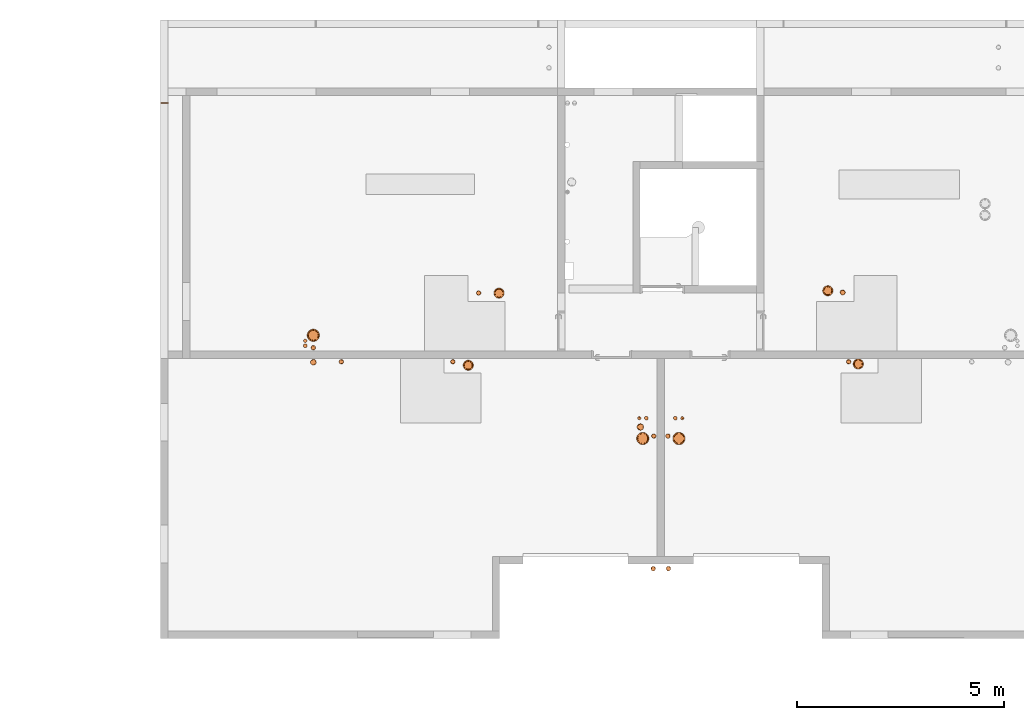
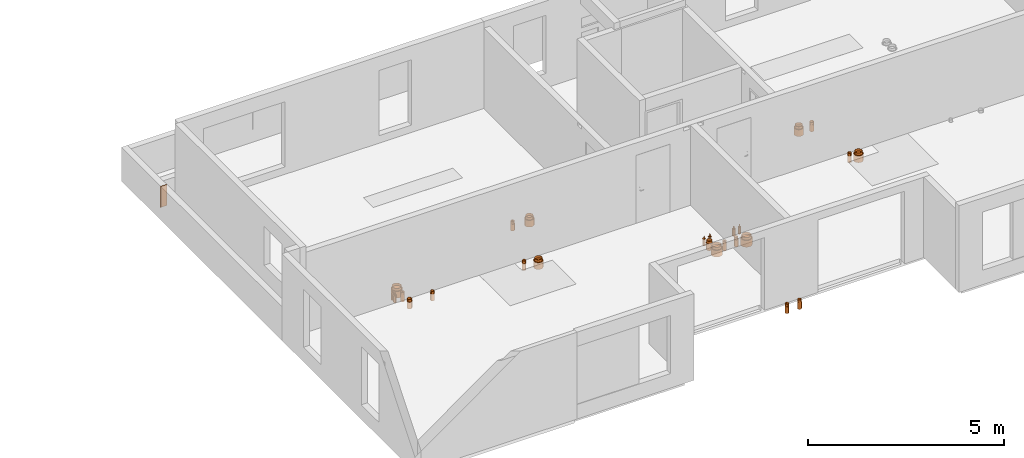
# One storey, part 23 of 28: 26 proxies.
"""IFC2X3 building model written with IfcOpenShell, lengths in centimetres."""

from ifc_helpers import new_model, entity, si_unit, converted_unit, derived_unit, direction, frame, frame_2d, origin, origin_2d_with_axis, place, context, subcontext, project, spatial, rectangle, circle, hollow_circle, extrude, source, transform, mapped, material, type_object, type_shapes, element, save


model = new_model("IFC2X3")

# Units and contexts
model_context = context("Model", 3, precision=0.001, world=origin(), true_north=direction((6.12303176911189e-17, 1.0)))
body_context = subcontext(model_context, "Body", "Model", "MODEL_VIEW")
ifc_project = project(units=[si_unit("LENGTHUNIT", "METRE", prefix="CENTI"), si_unit("AREAUNIT", "SQUARE_METRE"), si_unit("VOLUMEUNIT", "CUBIC_METRE"), converted_unit("PLANEANGLEUNIT", "DEGREE", entity("IfcRatioMeasure", 0.0174532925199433), si_unit("PLANEANGLEUNIT", "RADIAN"), dimensions=[0, 0, 0, 0, 0, 0, 0]), si_unit("MASSUNIT", "GRAM", prefix="KILO"), derived_unit("MASSDENSITYUNIT", [(si_unit("MASSUNIT", "GRAM", prefix="KILO"), 1), (si_unit("LENGTHUNIT", "METRE"), -3)]), si_unit("TIMEUNIT", "SECOND"), si_unit("FREQUENCYUNIT", "HERTZ"), si_unit("THERMODYNAMICTEMPERATUREUNIT", "DEGREE_CELSIUS"), derived_unit("THERMALTRANSMITTANCEUNIT", [(si_unit("MASSUNIT", "GRAM", prefix="KILO"), 1), (si_unit("THERMODYNAMICTEMPERATUREUNIT", "KELVIN"), -1), (si_unit("TIMEUNIT", "SECOND"), -3)]), derived_unit("VOLUMETRICFLOWRATEUNIT", [(si_unit("LENGTHUNIT", "METRE"), 3), (si_unit("TIMEUNIT", "SECOND"), -1)]), si_unit("ELECTRICCURRENTUNIT", "AMPERE"), si_unit("ELECTRICVOLTAGEUNIT", "VOLT"), si_unit("POWERUNIT", "WATT"), si_unit("FORCEUNIT", "NEWTON"), si_unit("ILLUMINANCEUNIT", "LUX"), si_unit("LUMINOUSFLUXUNIT", "LUMEN"), si_unit("LUMINOUSINTENSITYUNIT", "CANDELA"), derived_unit("USERDEFINED", [(si_unit("MASSUNIT", "GRAM", prefix="KILO"), -1), (si_unit("LENGTHUNIT", "METRE"), -2), (si_unit("TIMEUNIT", "SECOND"), 3), (si_unit("LUMINOUSFLUXUNIT", "LUMEN"), 1)]), derived_unit("LINEARVELOCITYUNIT", [(si_unit("LENGTHUNIT", "METRE"), 1), (si_unit("TIMEUNIT", "SECOND"), -1)]), si_unit("PRESSUREUNIT", "PASCAL"), derived_unit("USERDEFINED", [(si_unit("LENGTHUNIT", "METRE"), -2), (si_unit("MASSUNIT", "GRAM", prefix="KILO"), 1), (si_unit("TIMEUNIT", "SECOND"), -2)])], contexts=[model_context])

# Site, building, storey
site_placement = place(None, origin())
site = spatial("IfcSite", under=ifc_project, at=site_placement, Name="Default", CompositionType="ELEMENT")
building_placement = place(site_placement, origin())
building = spatial("IfcBuilding", under=site, at=building_placement, Name="CAGE 03", CompositionType="ELEMENT")
storey_placement = place(building_placement, frame((0.0, 0.0, 1420.0)))
storey = spatial("IfcBuildingStorey", under=building, at=storey_placement, Name="R+5", CompositionType="ELEMENT", Elevation=1420.0)

# Proxies
ifc_material_1 = material(Name="BBGO_Résa")
building_element_proxy_type_1 = type_object("IfcBuildingElementProxyType", Name="J.F.", PredefinedType="NOTDEFINED", material=ifc_material_1)
shared_shape_1 = source(origin(), body_context, "Body", "SweptSolid", [
    extrude(rectangle(XDim=1.99999999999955, YDim=18.0000000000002, at=origin_2d_with_axis()), frame((5879.36582014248, 5092.66066607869, 1460.0), z_axis=(0.0, 0.0, 1.0), x_axis=(0.0, 1.0, 0.0)), (0.0, 0.0, 1.0), 64.9999999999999),
])
type_shapes(building_element_proxy_type_1, [shared_shape_1])
proxy_1_placement = place(storey_placement, frame((0.0, 0.0, -1420.0)))
element("IfcBuildingElementProxy", 1, at=proxy_1_placement, inside=storey, type_object=building_element_proxy_type_1, material=ifc_material_1, Name="BBGO-Résa rect et circ:J.F.", ObjectType="J.F.", context=body_context, shape_type="MappedRepresentation", body=[
    mapped(shared_shape_1, transform((0.0, 0.0, 0.0), scale=1.0)),
])
ifc_material_2 = material(Name="Conduit VMC")
building_element_proxy_type_2 = type_object("IfcBuildingElementProxyType", Name="VMC 200", PredefinedType="NOTDEFINED", material=ifc_material_2)
shared_shape_2 = source(origin(), body_context, "Body", "SweptSolid", [
    extrude(circle(Radius=12.5, at=frame_2d((0.0, -2.01943071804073e-14), x_axis=(1.0, 0.0))), frame((0.0, 0.0, -21.0)), (0.0, 0.0, 1.0), 21.0),
    extrude(hollow_circle(Radius=10.0, WallThickness=0.5, at=frame_2d((0.0, -1.61554457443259e-14), x_axis=(1.0, 0.0))), frame((0.0, 0.0, -21.0)), (0.0, 0.0, 1.0), 28.5),
])
type_shapes(building_element_proxy_type_2, [shared_shape_2])
proxy_2_placement = place(storey_placement, frame((7485.62782424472, 4638.16752120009, 0.0)))
element("IfcBuildingElementProxy", 2, at=proxy_2_placement, inside=storey, type_object=building_element_proxy_type_2, material=ifc_material_2, Name="Galette - Résa - PVC4:VMC 200", ObjectType="VMC 200", context=body_context, shape_type="MappedRepresentation", body=[
    mapped(shared_shape_2, transform((0.0, 0.0, 0.0), scale=1.0)),
])
building_element_proxy_type_3 = type_object("IfcBuildingElementProxyType", Name="CFO235 P210", PredefinedType="NOTDEFINED", material=ifc_material_2)
shared_shape_3 = source(origin(), body_context, "Body", "SweptSolid", [
    extrude(circle(Radius=12.5, at=frame_2d((0.0, -2.01943071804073e-14), x_axis=(1.0, 0.0))), frame((0.0, 0.0, -21.0)), (0.0, 0.0, 1.0), 21.0),
    extrude(hollow_circle(Radius=10.0, WallThickness=0.5, at=frame_2d((0.0, -1.61554457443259e-14), x_axis=(1.0, 0.0))), frame((0.0, 0.0, -21.0)), (0.0, 0.0, 1.0), 28.5),
])
type_shapes(building_element_proxy_type_3, [shared_shape_3])
for number, where, name in (
    (3, (6689.61170908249, 4632.46760794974, 0.0), "Galette - Résa - PVC4:CFO235 P210"),
    (4, (7559.2488384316, 4460.96671430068, 0.0), "Galette - Résa - PVC4:CFO235 P210"),
    (5, (6615.21171708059, 4457.86905232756, 0.0), "Galette - Résa - PVC4:CFO235 P210"),
):
    element("IfcBuildingElementProxy", number, at=place(storey_placement, frame(where)), inside=storey, type_object=building_element_proxy_type_3, material=ifc_material_2, Name=name, ObjectType="CFO235 P210", context=body_context, shape_type="MappedRepresentation", body=[
        mapped(shared_shape_3, transform((0.0, 0.0, 0.0), scale=1.0)),
    ])
ifc_material_3 = material(Name="Conduit EU")
building_element_proxy_type_4 = type_object("IfcBuildingElementProxyType", Name="EU 110", PredefinedType="NOTDEFINED", material=ifc_material_3)
shared_shape_4 = source(origin(), body_context, "Body", "SweptSolid", [
    extrude(circle(Radius=6.25, at=frame_2d((0.0, -1.00971535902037e-14), x_axis=(1.0, 0.0))), frame((0.0, 0.0, -21.0)), (0.0, 0.0, 1.0), 21.0),
    extrude(hollow_circle(Radius=5.5, WallThickness=0.250000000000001, at=frame_2d((0.0, -8.88549515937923e-15), x_axis=(1.0, 0.0))), frame((0.0, 0.0, -21.0)), (0.0, 0.0, 1.0), 28.5),
])
type_shapes(building_element_proxy_type_4, [shared_shape_4])
proxy_3_placement = place(storey_placement, frame((7521.63327767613, 4634.34777944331, 0.0)))
element("IfcBuildingElementProxy", 6, at=proxy_3_placement, inside=storey, type_object=building_element_proxy_type_4, material=ifc_material_3, Name="Galette - Résa - PVC4:EU 110", ObjectType="EU 110", context=body_context, shape_type="MappedRepresentation", body=[
    mapped(shared_shape_4, transform((0.0, 0.0, 0.0), scale=1.0)),
])
ifc_material_4 = material(Name="Conduit EP")
building_element_proxy_type_5 = type_object("IfcBuildingElementProxyType", Name="EP 101", PredefinedType="NOTDEFINED", material=ifc_material_4)
shared_shape_5 = source(origin(), body_context, "Body", "SweptSolid", [
    extrude(circle(Radius=5.5, at=frame_2d((0.0, -8.88549515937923e-15), x_axis=(1.0, 0.0))), frame((0.0, 0.0, -21.0)), (0.0, 0.0, 1.0), 21.0),
    extrude(hollow_circle(Radius=5.0, WallThickness=0.25, at=frame_2d((0.0, -8.07772287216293e-15), x_axis=(1.0, 0.0))), frame((0.0, 0.0, -21.0)), (0.0, 0.0, 1.0), 28.5),
])
type_shapes(building_element_proxy_type_5, [shared_shape_5])
for number, where, name in (
    (7, (7099.86582014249, 3965.65818063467, 0.0), "Galette - Résa - PVC4:EP 101"),
    (8, (7062.86582051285, 3965.65818063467, 0.0), "Galette - Résa - PVC4:EP 101"),
):
    element("IfcBuildingElementProxy", number, at=place(storey_placement, frame(where)), inside=storey, type_object=building_element_proxy_type_5, material=ifc_material_4, Name=name, ObjectType="EP 101", context=body_context, shape_type="MappedRepresentation", body=[
        mapped(shared_shape_5, transform((0.0, 0.0, 0.0), scale=1.0)),
    ])
building_element_proxy_type_6 = type_object("IfcBuildingElementProxyType", Name="CFO160 P150", PredefinedType="NOTDEFINED", material=ifc_material_4)
shared_shape_6 = source(origin(), body_context, "Body", "SweptSolid", [
    extrude(circle(Radius=8.0, at=frame_2d((0.0, -1.29243565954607e-14), x_axis=(1.0, 0.0))), frame((0.0, 0.0, -21.0)), (0.0, 0.0, 1.0), 21.0),
    extrude(hollow_circle(Radius=7.0, WallThickness=0.25, at=frame_2d((0.0, -1.13088120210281e-14), x_axis=(1.0, 0.0))), frame((0.0, 0.0, -21.0)), (0.0, 0.0, 1.0), 28.5),
])
type_shapes(building_element_proxy_type_6, [shared_shape_6])
proxy_4_placement = place(storey_placement, frame((7031.90297713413, 4308.4720260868, 0.0)))
element("IfcBuildingElementProxy", 9, at=proxy_4_placement, inside=storey, type_object=building_element_proxy_type_6, material=ifc_material_4, Name="Galette - Résa - PVC4:CFO160 P150", ObjectType="CFO160 P150", context=body_context, shape_type="MappedRepresentation", body=[
    mapped(shared_shape_6, transform((0.0, 0.0, 0.0), scale=1.0)),
])
building_element_proxy_type_7 = type_object("IfcBuildingElementProxyType", Name="CFO125 P110", PredefinedType="NOTDEFINED", material=ifc_material_3)
shared_shape_7 = source(origin(), body_context, "Body", "SweptSolid", [
    extrude(circle(Radius=5.5, at=frame_2d((0.0, -8.88549515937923e-15), x_axis=(1.0, 0.0))), frame((0.0, 0.0, -21.0)), (0.0, 0.0, 1.0), 21.0),
    extrude(hollow_circle(Radius=5.0, WallThickness=0.25, at=frame_2d((0.0, -8.07772287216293e-15), x_axis=(1.0, 0.0))), frame((0.0, 0.0, -21.0)), (0.0, 0.0, 1.0), 28.5),
])
type_shapes(building_element_proxy_type_7, [shared_shape_7])
for number, where, name in (
    (10, (7535.77855002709, 4466.36505499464, 0.0), "Galette - Résa - PVC4:CFO125 P110"),
    (11, (7098.50805140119, 4286.58036411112, 0.0), "Galette - Résa - PVC4:CFO125 P110"),
    (12, (7064.37018928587, 4286.58443855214, 0.0), "Galette - Résa - PVC4:CFO125 P110"),
    (13, (6308.05703024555, 4466.34830105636, 0.0), "Galette - Résa - PVC4:CFO125 P110"),
    (14, (6578.06629120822, 4466.41087994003, 0.0), "Galette - Résa - PVC4:CFO125 P110"),
    (15, (6240.09571149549, 4500.35421277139, 0.0), "Galette - Résa - PVC4:CFO125 P110"),
    (16, (6640.35702886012, 4632.82800462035, 0.0), "Galette - Résa - PVC4:CFO125 P110"),
):
    element("IfcBuildingElementProxy", number, at=place(storey_placement, frame(where)), inside=storey, type_object=building_element_proxy_type_7, material=ifc_material_3, Name=name, ObjectType="CFO125 P110", context=body_context, shape_type="MappedRepresentation", body=[
        mapped(shared_shape_7, transform((0.0, 0.0, 0.0), scale=1.0)),
    ])
ifc_material_5 = material(Name="Circuit ECS Retour")
building_element_proxy_type_8 = type_object("IfcBuildingElementProxyType", Name="CFO100 P80", PredefinedType="NOTDEFINED", material=ifc_material_5)
shared_shape_8 = source(origin(), body_context, "Body", "SweptSolid", [
    extrude(circle(Radius=4.0, at=frame_2d((0.0, -6.46217829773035e-15), x_axis=(1.0, 0.0))), frame((0.0, 0.0, -21.0)), (0.0, 0.0, 1.0), 21.0),
    extrude(hollow_circle(Radius=1.0, WallThickness=0.0500000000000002, at=frame_2d((0.0, -1.61554457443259e-15), x_axis=(1.0, 0.0))), frame((0.0, 0.0, -21.0)), (0.0, 0.0, 1.0), 28.5),
])
type_shapes(building_element_proxy_type_8, [shared_shape_8])
for number, where, name in (
    (17, (7133.44860425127, 4329.86526421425, 0.0), "Galette - Résa - PVC4:CFO100 P80"),
    (18, (7029.26768929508, 4329.86526421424, 0.0), "Galette - Résa - PVC4:CFO100 P80"),
    (19, (6220.55273892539, 4517.07558993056, 0.0), "Galette - Résa - PVC4:CFO100 P80"),
):
    element("IfcBuildingElementProxy", number, at=place(storey_placement, frame(where)), inside=storey, type_object=building_element_proxy_type_8, material=ifc_material_5, Name=name, ObjectType="CFO100 P80", context=body_context, shape_type="MappedRepresentation", body=[
        mapped(shared_shape_8, transform((0.0, 0.0, 0.0), scale=1.0)),
    ])
ifc_material_6 = material(Name="Circuit ECS Aller")
building_element_proxy_type_9 = type_object("IfcBuildingElementProxyType", Name="CFO100 P90", PredefinedType="NOTDEFINED", material=ifc_material_6)
shared_shape_9 = source(origin(), body_context, "Body", "SweptSolid", [
    extrude(circle(Radius=4.5, at=frame_2d((0.0, -7.26995058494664e-15), x_axis=(1.0, 0.0))), frame((0.0, 0.0, -21.0)), (0.0, 0.0, 1.0), 21.0),
    extrude(hollow_circle(Radius=1.6, WallThickness=0.05, at=frame_2d((0.0, -2.58487131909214e-15), x_axis=(1.0, 0.0))), frame((0.0, 0.0, -21.0)), (0.0, 0.0, 1.0), 28.5),
])
type_shapes(building_element_proxy_type_9, [shared_shape_9])
for number, where, name in (
    (20, (7046.26768929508, 4329.86526421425, 0.0), "Galette - Résa - PVC4:CFO100 P90"),
    (21, (7116.44860425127, 4329.86526421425, 0.0), "Galette - Résa - PVC4:CFO100 P90"),
    (22, (6220.55273892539, 4505.23903904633, 0.0), "Galette - Résa - PVC4:CFO100 P90"),
):
    element("IfcBuildingElementProxy", number, at=place(storey_placement, frame(where)), inside=storey, type_object=building_element_proxy_type_9, material=ifc_material_6, Name=name, ObjectType="CFO100 P90", context=body_context, shape_type="MappedRepresentation", body=[
        mapped(shared_shape_9, transform((0.0, 0.0, 0.0), scale=1.0)),
    ])
building_element_proxy_type_10 = type_object("IfcBuildingElementProxyType", Name="CFO285 P260", PredefinedType="NOTDEFINED", material=ifc_material_2)
shared_shape_10 = source(origin(), body_context, "Body", "SweptSolid", [
    extrude(circle(Radius=15.0, at=frame_2d((0.0, -2.42331686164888e-14), x_axis=(1.0, 0.0))), frame((0.0, 0.0, -21.0)), (0.0, 0.0, 1.0), 21.0),
    extrude(hollow_circle(Radius=12.5, WallThickness=0.499999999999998, at=frame_2d((0.0, -2.01943071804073e-14), x_axis=(1.0, 0.0))), frame((0.0, 0.0, -21.0)), (0.0, 0.0, 1.0), 28.5),
])
type_shapes(building_element_proxy_type_10, [shared_shape_10])
for number, where, name in (
    (23, (7037.61602078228, 4280.58090900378, 0.0), "Galette - Résa - PVC4:CFO285 P260"),
    (24, (7125.26139128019, 4280.58090900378, 0.0), "Galette - Résa - PVC4:CFO285 P260"),
    (25, (6240.09571149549, 4530.34782251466, 0.0), "Galette - Résa - PVC4:CFO285 P260"),
):
    element("IfcBuildingElementProxy", number, at=place(storey_placement, frame(where)), inside=storey, type_object=building_element_proxy_type_10, material=ifc_material_2, Name=name, ObjectType="CFO285 P260", context=body_context, shape_type="MappedRepresentation", body=[
        mapped(shared_shape_10, transform((0.0, 0.0, 0.0), scale=1.0)),
    ])
building_element_proxy_type_11 = type_object("IfcBuildingElementProxyType", Name="CFO140 P135", PredefinedType="NOTDEFINED", material=ifc_material_2)
shared_shape_11 = source(origin(), body_context, "Body", "SweptSolid", [
    extrude(circle(Radius=7.0, at=frame_2d((0.0, -1.13088120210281e-14), x_axis=(1.0, 0.0))), frame((0.0, 0.0, -21.0)), (0.0, 0.0, 1.0), 21.0),
    extrude(hollow_circle(Radius=6.25, WallThickness=0.25, at=frame_2d((0.0, -1.00971535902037e-14), x_axis=(1.0, 0.0))), frame((0.0, 0.0, -21.0)), (0.0, 0.0, 1.0), 28.5),
])
type_shapes(building_element_proxy_type_11, [shared_shape_11])
proxy_5_placement = place(storey_placement, frame((6240.30982300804, 4465.36426071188, 0.0)))
element("IfcBuildingElementProxy", 26, at=proxy_5_placement, inside=storey, type_object=building_element_proxy_type_11, material=ifc_material_2, Name="Galette - Résa - PVC4:CFO140 P135", ObjectType="CFO140 P135", context=body_context, shape_type="MappedRepresentation", body=[
    mapped(shared_shape_11, transform((0.0, 0.0, 0.0), scale=1.0)),
])

save(model, "model.ifc")
